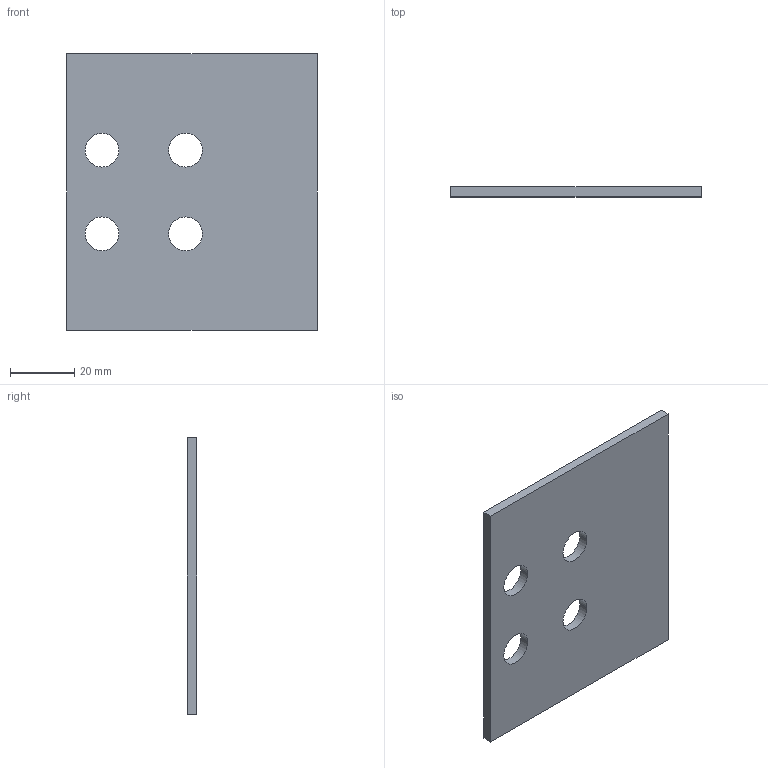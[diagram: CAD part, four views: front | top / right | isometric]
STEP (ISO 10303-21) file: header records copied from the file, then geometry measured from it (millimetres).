
FILE_DESCRIPTION( ( '' ), '1' );
FILE_NAME( 'E:/04 嬴檜蠱滌/0404 ZIMMER/040414 ZIMMER CAD download/Adapt plate/PLK for LKP, LKPS/PLK45-3.stp', '2020-04-16T10:19:57', ( '' ), ( '' ), ' ', ' ', ' ' );
FILE_SCHEMA( ( 'automotive_design' ) );
Length unit declared in the file: millimetre
Products named in the file (1): 1
Bounding box: 78 x 3 x 86 mm (x, y, z)
Volume: 19084.9 mm3; surface area: 14103.1 mm2
Topology: 1 solids, 1 shells, 14 faces, 36 edges, 24 vertices
Faces by surface type: cylinder 8, plane 6
Entity records: 888 total; most frequent: DIRECTION 82, STYLED_ITEM 75, PRESENTATION_STYLE_ASSIGNMENT 75, CARTESIAN_POINT 75, COLOUR_RGB 75, ORIENTED_EDGE 72, EDGE_CURVE 36, CURVE_STYLE 36
